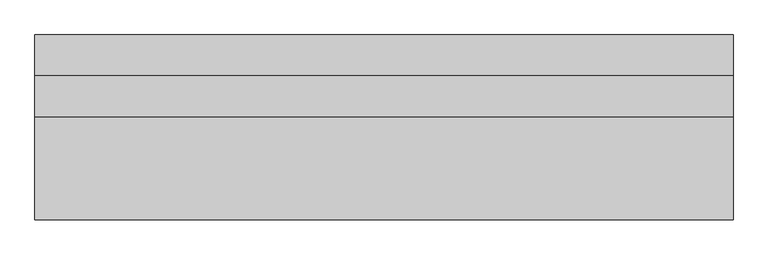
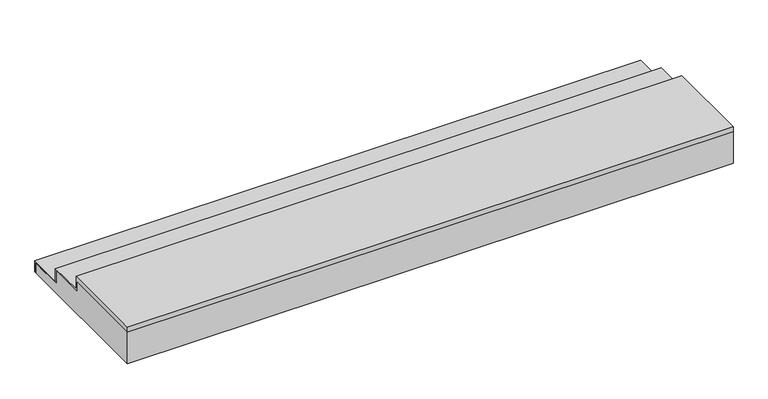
"""IFC4 building model written with IfcOpenShell, lengths in millimetres: proxy geometry, 室外台阶 : 室外台阶."""

from ifc_helpers import new_model, si_unit, frame, origin, place, context, project, spatial, polyline, outline, extrude, source, transform, mapped, element, save


def generic_models_a7ba552c(model_context):
    return source(origin(), model_context, "Body", "SweptSolid", [
        extrude(outline(polyline([(1780.0, -430.0), (0.0, -430.0), (0.0, -60.0), (980.0, -60.0), (980.0, -170.0), (1380.0, -170.0), (1380.0, -320.0), (1780.0, -320.0), (1780.0, -430.0)])), frame((0.0, 0.0, 0.0), z_axis=(1.0, 0.0, 0.0), x_axis=(0.0, 1.0, 0.0)), (0.0, 0.0, 1.0), 6800.3045361),
        extrude(outline(polyline([(1000.0, 0.0), (1000.0, -150.0), (1400.0, -150.0), (1400.0, -300.0), (1800.0, -300.0), (1800.0, -430.0), (1780.0, -430.0), (1780.0, -320.0), (1380.0, -320.0), (1380.0, -170.0), (980.0, -170.0), (980.0, -60.0), (0.0, -60.0), (0.0, 0.0), (1000.0, 0.0)])), frame((0.0, 0.0, 0.0), z_axis=(1.0, 0.0, 0.0), x_axis=(0.0, 1.0, 0.0)), (0.0, 0.0, 1.0), 6800.3045361),
    ])


if __name__ == "__main__":
    model = new_model("IFC4")
    model_context = context("Model", 3, world=origin())
    ifc_project = project(units=[si_unit("LENGTHUNIT", "METRE", prefix="MILLI")], contexts=[model_context])
    site = spatial("IfcSite", under=ifc_project)
    building = spatial("IfcBuilding", under=site)
    placement = place(None, origin())
    generic_models_shape = generic_models_a7ba552c(model_context)
    element("IfcBuildingElementProxy", 1, Name="室外台阶 : 室外台阶", ObjectType="室外台阶 : 室外台阶", at=placement, inside=building, context=model_context, shape_type="MappedRepresentation", body=[
        mapped(generic_models_shape, transform((0.0, 0.0, 0.0), x_axis=(1.0, 0.0, 0.0), y_axis=(0.0, 1.0, 0.0), z_axis=(0.0, 0.0, 1.0))),
    ])
    save(model, "model.ifc")
